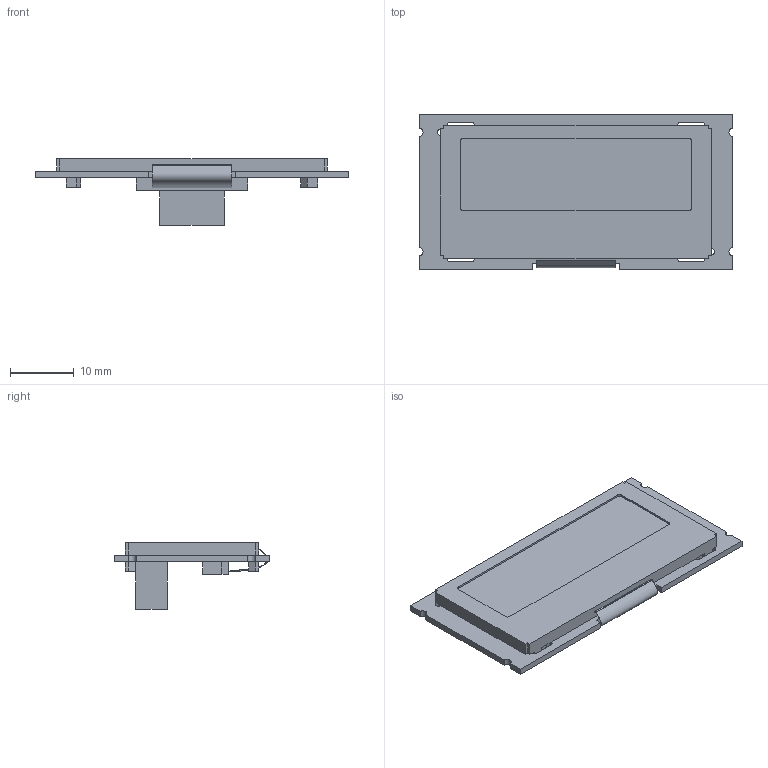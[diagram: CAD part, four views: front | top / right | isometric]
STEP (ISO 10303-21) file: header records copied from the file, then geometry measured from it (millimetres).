
FILE_DESCRIPTION (( 'STEP AP214' ), '1' );
FILE_NAME ('NHD-0216MW-SB3.STEP', '2017-06-19T21:39:36', ( '' ), ( '' ), 'SwSTEP 2.0', 'SolidWorks 2015', '' );
FILE_SCHEMA (( 'AUTOMOTIVE_DESIGN' ));
Length unit declared in the file: millimetre
Products named in the file (1): NHD-0216MW-SB3
Bounding box: 49.2 x 24.4 x 10.5 mm (x, y, z)
Volume: 3261.2 mm3; surface area: 3713.8 mm2
Topology: 1 solids, 1 shells, 180 faces, 492 edges, 320 vertices
Faces by surface type: plane 148, cylinder 30, bspline 2
Entity records: 7734 total; most frequent: CARTESIAN_POINT 1099, ORIENTED_EDGE 984, DIRECTION 906, EDGE_CURVE 492, VECTOR 420, LINE 420, VERTEX_POINT 320, AXIS2_PLACEMENT_3D 243
